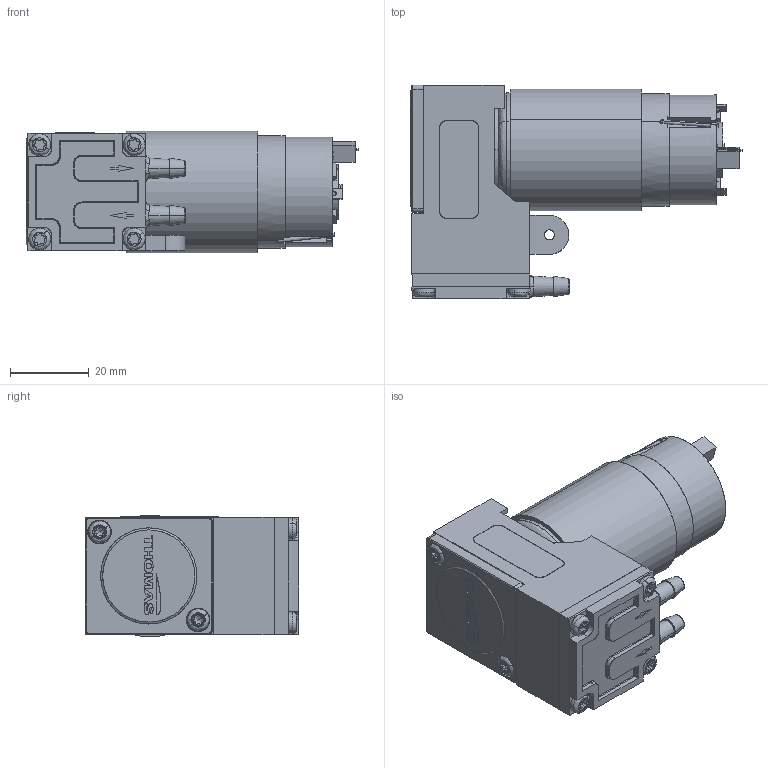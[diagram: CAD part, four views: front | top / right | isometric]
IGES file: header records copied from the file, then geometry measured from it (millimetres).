
Start section: SolidWorks IGES file using analytic representation for surfaces
Global section: file name: C:\Users\KXP2111\Desktop\MF20004-Desktop\Output\14100105-18\14100105-18.IGS; native system: SolidWorks 2018; preprocessor: SolidWorks 2018; author: KXP2111; date: 190828.131321; units: millimetre
Bounding box: 84.55 x 54.4 x 31 mm (x, y, z)
Surface area: 15688.8 mm2 (no closed solid volume)
Topology: 0 solids, 0 shells, 1136 faces, 9879 edges, 9871 vertices
Faces by surface type: bspline 887, revolution 249
